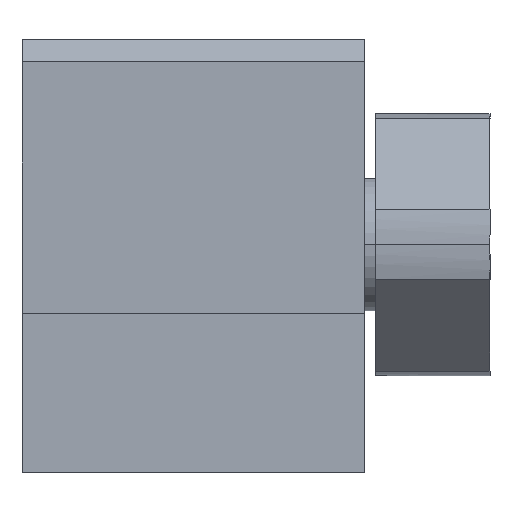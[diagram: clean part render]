
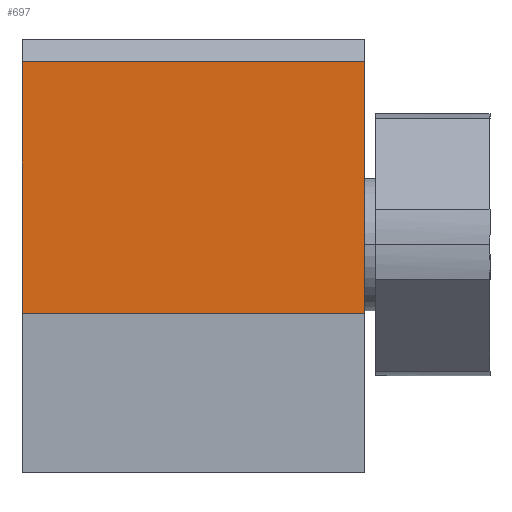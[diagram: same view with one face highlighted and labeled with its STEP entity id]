
A CAD part, front view. The second image highlights one B-rep face of the part: STEP entity #697.
In plain terms, the highlighted planar face has unit normal (0, -1, 0).
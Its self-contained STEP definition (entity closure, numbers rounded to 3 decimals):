
#288=CARTESIAN_POINT('Vertex',(-15.,-9.,8.)) ;
#326=CARTESIAN_POINT('Vertex',(-15.,-9.,-3.)) ;
#329=CARTESIAN_POINT('Line Origine',(-15.,-9.,2.5)) ;
#423=CARTESIAN_POINT('Line Origine',(0.,-9.,2.5)) ;
#427=CARTESIAN_POINT('Vertex',(0.,-9.,8.)) ;
#429=CARTESIAN_POINT('Vertex',(0.,-9.,-3.)) ;
#624=CARTESIAN_POINT('Line Origine',(-7.5,-9.,8.)) ;
#670=CARTESIAN_POINT('Line Origine',(-7.5,-9.,-3.)) ;
#686=CARTESIAN_POINT('Axis2P3D Location',(0.,-9.,-3.)) ;
#330=DIRECTION('Vector Direction',(0.,0.,1.)) ;
#424=DIRECTION('Vector Direction',(0.,0.,1.)) ;
#625=DIRECTION('Vector Direction',(-1.,0.,0.)) ;
#671=DIRECTION('Vector Direction',(-1.,0.,0.)) ;
#687=DIRECTION('Axis2P3D Direction',(0.,-1.,0.)) ;
#688=DIRECTION('Axis2P3D XDirection',(0.,0.,1.)) ;
#689=AXIS2_PLACEMENT_3D('Plane Axis2P3D',#686,#687,#688) ;
#692=ORIENTED_EDGE('',*,*,#333,.T.) ;
#693=ORIENTED_EDGE('',*,*,#674,.F.) ;
#694=ORIENTED_EDGE('',*,*,#431,.F.) ;
#695=ORIENTED_EDGE('',*,*,#628,.T.) ;
#331=VECTOR('Line Direction',#330,1.) ;
#425=VECTOR('Line Direction',#424,1.) ;
#626=VECTOR('Line Direction',#625,1.) ;
#672=VECTOR('Line Direction',#671,1.) ;
#697=ADVANCED_FACE('EK4 P5(H)',(#696),#690,.T.) ;
#333=EDGE_CURVE('',#289,#327,#332,.F.) ;
#431=EDGE_CURVE('',#428,#430,#426,.F.) ;
#628=EDGE_CURVE('',#428,#289,#627,.T.) ;
#674=EDGE_CURVE('',#430,#327,#673,.T.) ;
#691=EDGE_LOOP('',(#692,#693,#694,#695)) ;
#696=FACE_OUTER_BOUND('',#691,.T.) ;
#332=LINE('Line',#329,#331) ;
#426=LINE('Line',#423,#425) ;
#627=LINE('Line',#624,#626) ;
#673=LINE('Line',#670,#672) ;
#690=PLANE('Plane',#689) ;
#289=VERTEX_POINT('',#288) ;
#327=VERTEX_POINT('',#326) ;
#428=VERTEX_POINT('',#427) ;
#430=VERTEX_POINT('',#429) ;
